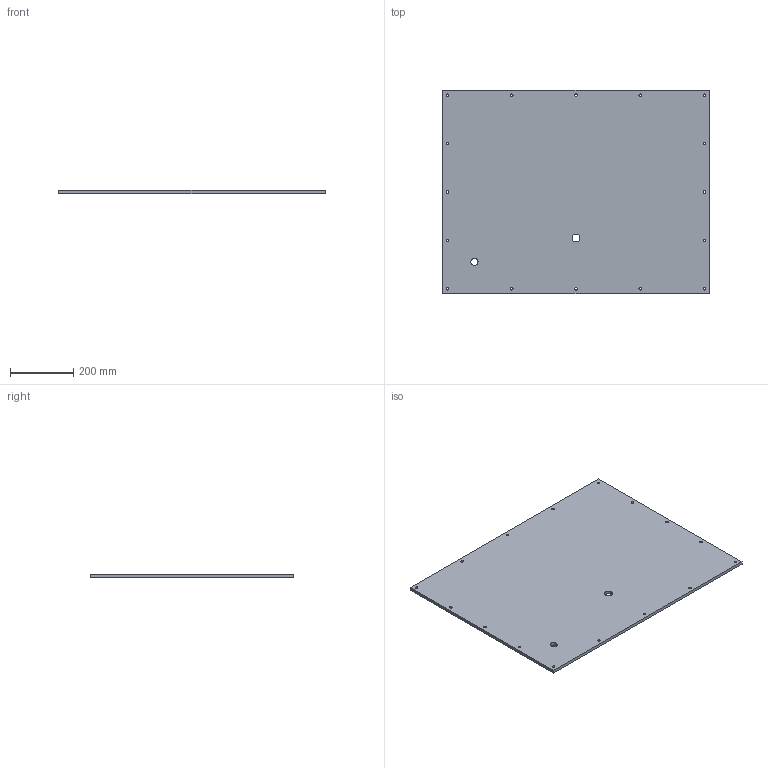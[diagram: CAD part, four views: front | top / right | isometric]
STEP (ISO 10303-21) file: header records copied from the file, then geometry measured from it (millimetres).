
FILE_DESCRIPTION (( 'STEP AP214' ), '1' );
FILE_NAME ('vytlacna_nadrz_viko_dil.STEP', '2019-08-05T08:21:11', ( '' ), ( '' ), 'SwSTEP 2.0', 'SolidWorks 2016', '' );
FILE_SCHEMA (( 'AUTOMOTIVE_DESIGN' ));
Length unit declared in the file: millimetre
Products named in the file (1): vytlacna_nadrz_viko_dil
Bounding box: 840 x 640 x 10 mm (x, y, z)
Volume: 5359072.7 mm3; surface area: 1106928 mm2
Topology: 1 solids, 1 shells, 42 faces, 120 edges, 80 vertices
Faces by surface type: cylinder 36, plane 6
Entity records: 1544 total; most frequent: DIRECTION 278, CARTESIAN_POINT 243, ORIENTED_EDGE 240, EDGE_CURVE 120, AXIS2_PLACEMENT_3D 115, VERTEX_POINT 80, EDGE_LOOP 78, CIRCLE 72
